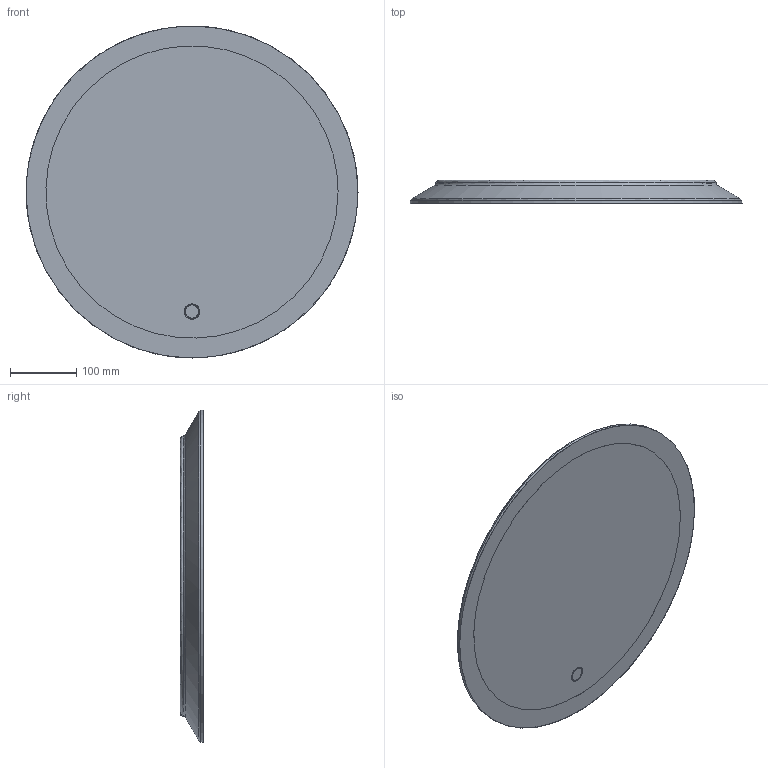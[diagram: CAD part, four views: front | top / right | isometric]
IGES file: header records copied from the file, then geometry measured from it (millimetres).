
Global section: file name: 502796; native system: Autodesk Inventor 2021; preprocessor: unknown; author: JANAN; date: 20221202.150703; units: millimetre
Bounding box: 500 x 35.1 x 500 mm (x, y, z)
Volume: 5845540.1 mm3; surface area: 895974.9 mm2
Topology: 4 solids, 4 shells, 25 faces, 55 edges, 41 vertices
Faces by surface type: bspline 25
